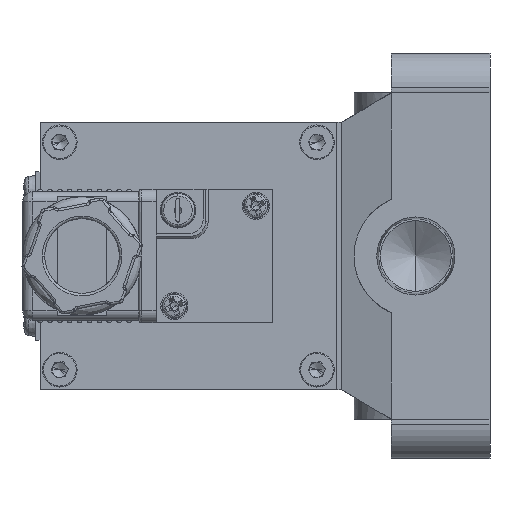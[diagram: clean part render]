
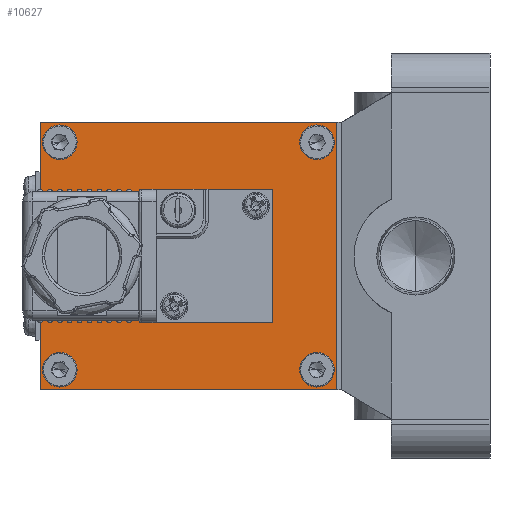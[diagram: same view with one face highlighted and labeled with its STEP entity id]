
A CAD part, left-side view. The second image highlights one B-rep face of the part: STEP entity #10627.
In plain terms, the highlighted planar face has unit normal (-1, 0, 0) as drawn and (1, 0, 0) by its records, which use the part's own axes.
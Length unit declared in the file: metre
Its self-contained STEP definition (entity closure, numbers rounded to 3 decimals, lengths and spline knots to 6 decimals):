
#56 = VERTEX_POINT ( 'NONE', #20054 ) ;
#516 = VECTOR ( 'NONE', #3201, 1. ) ;
#784 = CARTESIAN_POINT ( 'NONE',  ( 0.051, 0.087, 0.021 ) ) ;
#815 = EDGE_CURVE ( 'NONE', #56, #7401, #15204, .T. ) ;
#961 = VERTEX_POINT ( 'NONE', #23867 ) ;
#1469 = CARTESIAN_POINT ( 'NONE',  ( 0.051, 0.031, 0.027 ) ) ;
#1650 = DIRECTION ( 'NONE',  ( -1., 0., 0. ) ) ;
#1908 = EDGE_CURVE ( 'NONE', #18984, #17929, #28864, .T. ) ;
#2726 = VERTEX_POINT ( 'NONE', #6129 ) ;
#2998 = CARTESIAN_POINT ( 'NONE',  ( 0.051, 0.091, 0.027 ) ) ;
#3084 = CARTESIAN_POINT ( 'NONE',  ( 0.051, 0.035, -0.021 ) ) ;
#3201 = DIRECTION ( 'NONE',  ( 0., 0., -1. ) ) ;
#3772 = EDGE_CURVE ( 'NONE', #14499, #961, #24589, .T. ) ;
#3900 = AXIS2_PLACEMENT_3D ( 'NONE', #20603, #20648, #20673 ) ;
#4275 = CARTESIAN_POINT ( 'NONE',  ( 0.051, 0.035, -0.023 ) ) ;
#4473 = VERTEX_POINT ( 'NONE', #12559 ) ;
#5138 = AXIS2_PLACEMENT_3D ( 'NONE', #30159, #13589, #27784 ) ;
#5326 = CARTESIAN_POINT ( 'NONE',  ( 0.051, 0.087, -0.023 ) ) ;
#5492 = CARTESIAN_POINT ( 'NONE',  ( 0.051, 0.031, 0. ) ) ;
#6129 = CARTESIAN_POINT ( 'NONE',  ( 0.051, 0.031, 0.027 ) ) ;
#6566 = FACE_OUTER_BOUND ( 'NONE', #27280, .T. ) ;
#6668 = DIRECTION ( 'NONE',  ( 0., 0., -1. ) ) ;
#6753 = DIRECTION ( 'NONE',  ( 0., 0., 1. ) ) ;
#6868 = LINE ( 'NONE', #5492, #516 ) ;
#6940 = DIRECTION ( 'NONE',  ( -1., 0., 0. ) ) ;
#7319 = FACE_BOUND ( 'NONE', #25827, .T. ) ;
#7401 = VERTEX_POINT ( 'NONE', #17137 ) ;
#7437 = AXIS2_PLACEMENT_3D ( 'NONE', #5326, #21899, #7717 ) ;
#7462 = ORIENTED_EDGE ( 'NONE', *, *, #27664, .T. ) ;
#7574 = VECTOR ( 'NONE', #6753, 1. ) ;
#7656 = EDGE_LOOP ( 'NONE', ( #23157, #19479 ) ) ;
#7717 = DIRECTION ( 'NONE',  ( 0., 0., -1. ) ) ;
#7947 = CIRCLE ( 'NONE', #8228, 0.002 ) ;
#8015 = CARTESIAN_POINT ( 'NONE',  ( 0.051, 0.035, -0.023 ) ) ;
#8228 = AXIS2_PLACEMENT_3D ( 'NONE', #21136, #6940, #23489 ) ;
#8618 = VERTEX_POINT ( 'NONE', #3084 ) ;
#9369 = DIRECTION ( 'NONE',  ( 0., 1., 0. ) ) ;
#10376 = DIRECTION ( 'NONE',  ( 0., 0., -1. ) ) ;
#10627 = ADVANCED_FACE ( 'NONE', ( #7319, #25440, #12833, #26928, #6566 ), #29872, .T. ) ;
#11037 = CARTESIAN_POINT ( 'NONE',  ( 0.051, 0.061, 0.027 ) ) ;
#11089 = EDGE_CURVE ( 'NONE', #961, #14499, #16572, .T. ) ;
#11566 = AXIS2_PLACEMENT_3D ( 'NONE', #15876, #1650, #18272 ) ;
#11797 = CARTESIAN_POINT ( 'NONE',  ( 0.051, 0.035, -0.025 ) ) ;
#11827 = ORIENTED_EDGE ( 'NONE', *, *, #25671, .T. ) ;
#11942 = VECTOR ( 'NONE', #9369, 1. ) ;
#12559 = CARTESIAN_POINT ( 'NONE',  ( 0.051, 0.091, -0.027 ) ) ;
#12833 = FACE_BOUND ( 'NONE', #7656, .T. ) ;
#12923 = EDGE_CURVE ( 'NONE', #4473, #15476, #13855, .T. ) ;
#13589 = DIRECTION ( 'NONE',  ( 1., 0., 0. ) ) ;
#13761 = CARTESIAN_POINT ( 'NONE',  ( 0.051, 0.087, -0.025 ) ) ;
#13855 = LINE ( 'NONE', #20963, #7574 ) ;
#14305 = LINE ( 'NONE', #11037, #19866 ) ;
#14334 = EDGE_LOOP ( 'NONE', ( #18837, #25682 ) ) ;
#14499 = VERTEX_POINT ( 'NONE', #13761 ) ;
#14949 = AXIS2_PLACEMENT_3D ( 'NONE', #1469, #25100, #20471 ) ;
#15204 = CIRCLE ( 'NONE', #29960, 0.002 ) ;
#15449 = ORIENTED_EDGE ( 'NONE', *, *, #815, .T. ) ;
#15476 = VERTEX_POINT ( 'NONE', #2998 ) ;
#15669 = VERTEX_POINT ( 'NONE', #22486 ) ;
#15876 = CARTESIAN_POINT ( 'NONE',  ( 0.051, 0.035, 0.023 ) ) ;
#16424 = CARTESIAN_POINT ( 'NONE',  ( 0.051, 0.061, -0.027 ) ) ;
#16487 = ORIENTED_EDGE ( 'NONE', *, *, #3772, .F. ) ;
#16572 = CIRCLE ( 'NONE', #7437, 0.002 ) ;
#16825 = ORIENTED_EDGE ( 'NONE', *, *, #23404, .T. ) ;
#16982 = AXIS2_PLACEMENT_3D ( 'NONE', #4275, #20867, #6668 ) ;
#17137 = CARTESIAN_POINT ( 'NONE',  ( 0.051, 0.035, 0.021 ) ) ;
#17929 = VERTEX_POINT ( 'NONE', #784 ) ;
#18272 = DIRECTION ( 'NONE',  ( 0., 0., -1. ) ) ;
#18315 = DIRECTION ( 'NONE',  ( 0., 0., -1. ) ) ;
#18690 = CARTESIAN_POINT ( 'NONE',  ( 0.051, 0.035, 0.023 ) ) ;
#18837 = ORIENTED_EDGE ( 'NONE', *, *, #25137, .T. ) ;
#18984 = VERTEX_POINT ( 'NONE', #28486 ) ;
#19052 = ORIENTED_EDGE ( 'NONE', *, *, #25288, .T. ) ;
#19479 = ORIENTED_EDGE ( 'NONE', *, *, #1908, .T. ) ;
#19866 = VECTOR ( 'NONE', #22853, 1. ) ;
#20054 = CARTESIAN_POINT ( 'NONE',  ( 0.051, 0.035, 0.025 ) ) ;
#20471 = DIRECTION ( 'NONE',  ( 0., 0., -1. ) ) ;
#20603 = CARTESIAN_POINT ( 'NONE',  ( 0.051, 0.087, 0.023 ) ) ;
#20648 = DIRECTION ( 'NONE',  ( -1., 0., 0. ) ) ;
#20673 = DIRECTION ( 'NONE',  ( 0., 0., -1. ) ) ;
#20867 = DIRECTION ( 'NONE',  ( -1., 0., 0. ) ) ;
#20963 = CARTESIAN_POINT ( 'NONE',  ( 0.051, 0.091, 0. ) ) ;
#21136 = CARTESIAN_POINT ( 'NONE',  ( 0.051, 0.087, 0.023 ) ) ;
#21899 = DIRECTION ( 'NONE',  ( 1., 0., 0. ) ) ;
#22486 = CARTESIAN_POINT ( 'NONE',  ( 0.051, 0.031, -0.027 ) ) ;
#22630 = EDGE_CURVE ( 'NONE', #8618, #26601, #25503, .T. ) ;
#22853 = DIRECTION ( 'NONE',  ( 0., -1., 0. ) ) ;
#23157 = ORIENTED_EDGE ( 'NONE', *, *, #25948, .T. ) ;
#23276 = AXIS2_PLACEMENT_3D ( 'NONE', #8015, #24549, #10376 ) ;
#23404 = EDGE_CURVE ( 'NONE', #15476, #2726, #14305, .T. ) ;
#23489 = DIRECTION ( 'NONE',  ( 0., 0., -1. ) ) ;
#23545 = CIRCLE ( 'NONE', #23276, 0.002 ) ;
#23867 = CARTESIAN_POINT ( 'NONE',  ( 0.051, 0.087, -0.021 ) ) ;
#24549 = DIRECTION ( 'NONE',  ( -1., 0., 0. ) ) ;
#24589 = CIRCLE ( 'NONE', #5138, 0.002 ) ;
#24878 = ORIENTED_EDGE ( 'NONE', *, *, #12923, .T. ) ;
#25100 = DIRECTION ( 'NONE',  ( 1., 0., 0. ) ) ;
#25137 = EDGE_CURVE ( 'NONE', #26601, #8618, #23545, .T. ) ;
#25267 = LINE ( 'NONE', #16424, #11942 ) ;
#25288 = EDGE_CURVE ( 'NONE', #7401, #56, #26864, .T. ) ;
#25440 = FACE_BOUND ( 'NONE', #14334, .T. ) ;
#25503 = CIRCLE ( 'NONE', #16982, 0.002 ) ;
#25671 = EDGE_CURVE ( 'NONE', #2726, #15669, #6868, .T. ) ;
#25682 = ORIENTED_EDGE ( 'NONE', *, *, #22630, .T. ) ;
#25827 = EDGE_LOOP ( 'NONE', ( #19052, #15449 ) ) ;
#25948 = EDGE_CURVE ( 'NONE', #17929, #18984, #7947, .T. ) ;
#26137 = DIRECTION ( 'NONE',  ( -1., 0., 0. ) ) ;
#26601 = VERTEX_POINT ( 'NONE', #11797 ) ;
#26864 = CIRCLE ( 'NONE', #11566, 0.002 ) ;
#26928 = FACE_BOUND ( 'NONE', #29507, .T. ) ;
#27280 = EDGE_LOOP ( 'NONE', ( #11827, #7462, #24878, #16825 ) ) ;
#27664 = EDGE_CURVE ( 'NONE', #15669, #4473, #25267, .T. ) ;
#27784 = DIRECTION ( 'NONE',  ( 0., 0., -1. ) ) ;
#28300 = ORIENTED_EDGE ( 'NONE', *, *, #11089, .F. ) ;
#28486 = CARTESIAN_POINT ( 'NONE',  ( 0.051, 0.087, 0.025 ) ) ;
#28864 = CIRCLE ( 'NONE', #3900, 0.002 ) ;
#29507 = EDGE_LOOP ( 'NONE', ( #16487, #28300 ) ) ;
#29872 = PLANE ( 'NONE',  #14949 ) ;
#29960 = AXIS2_PLACEMENT_3D ( 'NONE', #18690, #26137, #18315 ) ;
#30159 = CARTESIAN_POINT ( 'NONE',  ( 0.051, 0.087, -0.023 ) ) ;
